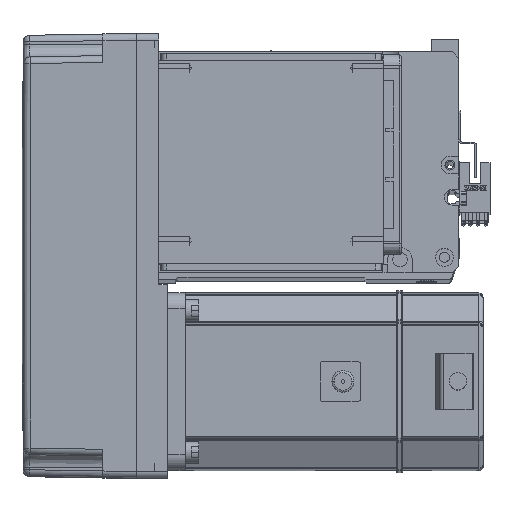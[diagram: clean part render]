
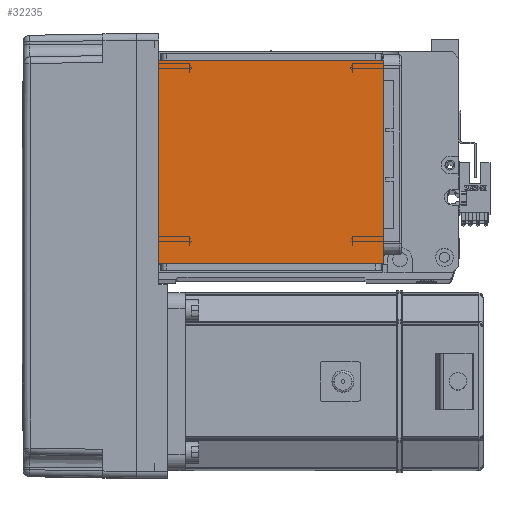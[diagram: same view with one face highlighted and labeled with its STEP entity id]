
A CAD part, top view. The second image highlights one B-rep face of the part: STEP entity #32235.
In plain terms, the highlighted planar face has unit normal (0, 0, 1).
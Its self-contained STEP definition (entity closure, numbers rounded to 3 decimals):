
#383 = CARTESIAN_POINT ( 'NONE',  ( 50.5, 111.5, 115. ) ) ;
#2245 = VECTOR ( 'NONE', #44550, 1000. ) ;
#2353 = VECTOR ( 'NONE', #9060, 1000. ) ;
#3266 = ORIENTED_EDGE ( 'NONE', *, *, #44588, .F. ) ;
#5142 = ORIENTED_EDGE ( 'NONE', *, *, #14012, .F. ) ;
#5628 = EDGE_CURVE ( 'NONE', #41294, #56726, #34136, .T. ) ;
#6036 = PLANE ( 'NONE',  #53676 ) ;
#6383 = VERTEX_POINT ( 'NONE', #383 ) ;
#6569 = LINE ( 'NONE', #39991, #2353 ) ;
#8103 = VERTEX_POINT ( 'NONE', #27510 ) ;
#9060 = DIRECTION ( 'NONE',  ( 0., 1., 0. ) ) ;
#9792 = DIRECTION ( 'NONE',  ( 0., 0., 1. ) ) ;
#12267 = DIRECTION ( 'NONE',  ( 1., 0., 0. ) ) ;
#14012 = EDGE_CURVE ( 'NONE', #8103, #56726, #26149, .T. ) ;
#14095 = CARTESIAN_POINT ( 'NONE',  ( 0., 0., 115. ) ) ;
#14300 = DIRECTION ( 'NONE',  ( 1., 0., 0. ) ) ;
#17299 = CARTESIAN_POINT ( 'NONE',  ( -70.004, 20., 115. ) ) ;
#20667 = CARTESIAN_POINT ( 'NONE',  ( -50.5, 111.5, 115. ) ) ;
#26149 = LINE ( 'NONE', #17299, #2245 ) ;
#27510 = CARTESIAN_POINT ( 'NONE',  ( 50.5, 20., 115. ) ) ;
#28090 = ORIENTED_EDGE ( 'NONE', *, *, #5628, .T. ) ;
#32235 = ADVANCED_FACE ( 'NONE', ( #57204 ), #6036, .T. ) ;
#34136 = LINE ( 'NONE', #39030, #41895 ) ;
#36609 = CARTESIAN_POINT ( 'NONE',  ( -50.5, 20., 115. ) ) ;
#38341 = VECTOR ( 'NONE', #12267, 1000. ) ;
#39030 = CARTESIAN_POINT ( 'NONE',  ( -50.5, 122., 115. ) ) ;
#39515 = EDGE_LOOP ( 'NONE', ( #3266, #28090, #5142, #49918 ) ) ;
#39991 = CARTESIAN_POINT ( 'NONE',  ( 50.5, 122., 115. ) ) ;
#40730 = EDGE_CURVE ( 'NONE', #8103, #6383, #6569, .T. ) ;
#41294 = VERTEX_POINT ( 'NONE', #20667 ) ;
#41895 = VECTOR ( 'NONE', #56063, 1000. ) ;
#44550 = DIRECTION ( 'NONE',  ( -1., 0., 0. ) ) ;
#44588 = EDGE_CURVE ( 'NONE', #41294, #6383, #51045, .T. ) ;
#47761 = CARTESIAN_POINT ( 'NONE',  ( -70.004, 111.5, 115. ) ) ;
#49918 = ORIENTED_EDGE ( 'NONE', *, *, #40730, .T. ) ;
#51045 = LINE ( 'NONE', #47761, #38341 ) ;
#53676 = AXIS2_PLACEMENT_3D ( 'NONE', #14095, #9792, #14300 ) ;
#56063 = DIRECTION ( 'NONE',  ( 0., -1., 0. ) ) ;
#56726 = VERTEX_POINT ( 'NONE', #36609 ) ;
#57204 = FACE_OUTER_BOUND ( 'NONE', #39515, .T. ) ;
